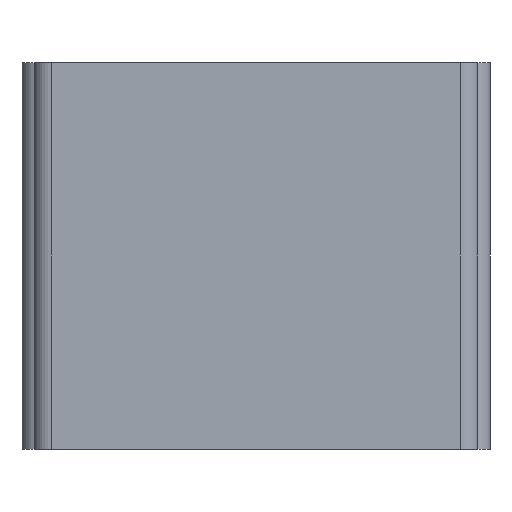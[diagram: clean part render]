
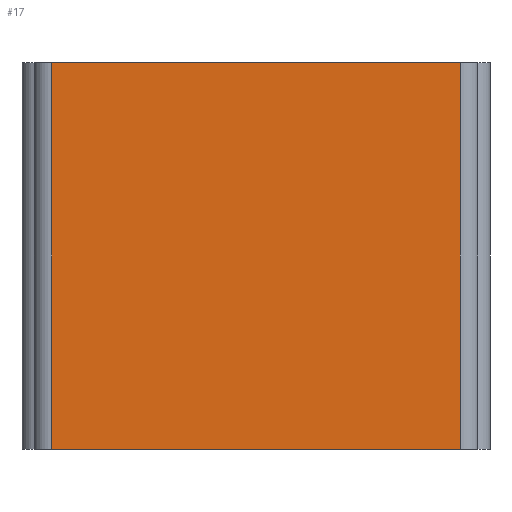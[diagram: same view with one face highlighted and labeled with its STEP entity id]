
A CAD part, left-side view. The second image highlights one B-rep face of the part: STEP entity #17.
In plain terms, the highlighted planar face has unit normal (-1, 0, 0).
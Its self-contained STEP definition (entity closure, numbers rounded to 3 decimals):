
#17 = ADVANCED_FACE('',(#18),#32,.F.);
#18 = FACE_BOUND('',#19,.F.);
#19 = EDGE_LOOP('',(#20,#55,#83,#111));
#20 = ORIENTED_EDGE('',*,*,#21,.F.);
#21 = EDGE_CURVE('',#22,#24,#26,.T.);
#22 = VERTEX_POINT('',#23);
#23 = CARTESIAN_POINT('',(-51.5,-27.5,26.));
#24 = VERTEX_POINT('',#25);
#25 = CARTESIAN_POINT('',(-51.5,27.5,26.));
#26 = SURFACE_CURVE('',#27,(#31,#43),.PCURVE_S1.);
#27 = LINE('',#28,#29);
#28 = CARTESIAN_POINT('',(-51.5,-30.,26.));
#29 = VECTOR('',#30,1.);
#30 = DIRECTION('',(0.,1.,0.));
#31 = PCURVE('',#32,#37);
#32 = PLANE('',#33);
#33 = AXIS2_PLACEMENT_3D('',#34,#35,#36);
#34 = CARTESIAN_POINT('',(-51.5,-30.,-26.));
#35 = DIRECTION('',(1.,0.,0.));
#36 = DIRECTION('',(0.,0.,1.));
#37 = DEFINITIONAL_REPRESENTATION('',(#38),#42);
#38 = LINE('',#39,#40);
#39 = CARTESIAN_POINT('',(52.,0.));
#40 = VECTOR('',#41,1.);
#41 = DIRECTION('',(0.,-1.));
#42 = ( GEOMETRIC_REPRESENTATION_CONTEXT(2) 
PARAMETRIC_REPRESENTATION_CONTEXT() REPRESENTATION_CONTEXT('2D SPACE',''
  ) );
#43 = PCURVE('',#44,#49);
#44 = PLANE('',#45);
#45 = AXIS2_PLACEMENT_3D('',#46,#47,#48);
#46 = CARTESIAN_POINT('',(-51.5,-30.,26.));
#47 = DIRECTION('',(0.,0.,1.));
#48 = DIRECTION('',(1.,0.,0.));
#49 = DEFINITIONAL_REPRESENTATION('',(#50),#54);
#50 = LINE('',#51,#52);
#51 = CARTESIAN_POINT('',(0.,0.));
#52 = VECTOR('',#53,1.);
#53 = DIRECTION('',(0.,1.));
#54 = ( GEOMETRIC_REPRESENTATION_CONTEXT(2) 
PARAMETRIC_REPRESENTATION_CONTEXT() REPRESENTATION_CONTEXT('2D SPACE',''
  ) );
#55 = ORIENTED_EDGE('',*,*,#56,.F.);
#56 = EDGE_CURVE('',#57,#22,#59,.T.);
#57 = VERTEX_POINT('',#58);
#58 = CARTESIAN_POINT('',(-51.5,-27.5,-26.));
#59 = SURFACE_CURVE('',#60,(#64,#71),.PCURVE_S1.);
#60 = LINE('',#61,#62);
#61 = CARTESIAN_POINT('',(-51.5,-27.5,-26.));
#62 = VECTOR('',#63,1.);
#63 = DIRECTION('',(0.,0.,1.));
#64 = PCURVE('',#32,#65);
#65 = DEFINITIONAL_REPRESENTATION('',(#66),#70);
#66 = LINE('',#67,#68);
#67 = CARTESIAN_POINT('',(0.,-2.5));
#68 = VECTOR('',#69,1.);
#69 = DIRECTION('',(1.,0.));
#70 = ( GEOMETRIC_REPRESENTATION_CONTEXT(2) 
PARAMETRIC_REPRESENTATION_CONTEXT() REPRESENTATION_CONTEXT('2D SPACE',''
  ) );
#71 = PCURVE('',#72,#77);
#72 = CYLINDRICAL_SURFACE('',#73,2.5);
#73 = AXIS2_PLACEMENT_3D('',#74,#75,#76);
#74 = CARTESIAN_POINT('',(-49.,-27.5,-26.));
#75 = DIRECTION('',(0.,0.,1.));
#76 = DIRECTION('',(-1.,-0.,0.));
#77 = DEFINITIONAL_REPRESENTATION('',(#78),#82);
#78 = LINE('',#79,#80);
#79 = CARTESIAN_POINT('',(0.,0.));
#80 = VECTOR('',#81,1.);
#81 = DIRECTION('',(0.,1.));
#82 = ( GEOMETRIC_REPRESENTATION_CONTEXT(2) 
PARAMETRIC_REPRESENTATION_CONTEXT() REPRESENTATION_CONTEXT('2D SPACE',''
  ) );
#83 = ORIENTED_EDGE('',*,*,#84,.T.);
#84 = EDGE_CURVE('',#57,#85,#87,.T.);
#85 = VERTEX_POINT('',#86);
#86 = CARTESIAN_POINT('',(-51.5,27.5,-26.));
#87 = SURFACE_CURVE('',#88,(#92,#99),.PCURVE_S1.);
#88 = LINE('',#89,#90);
#89 = CARTESIAN_POINT('',(-51.5,-30.,-26.));
#90 = VECTOR('',#91,1.);
#91 = DIRECTION('',(0.,1.,0.));
#92 = PCURVE('',#32,#93);
#93 = DEFINITIONAL_REPRESENTATION('',(#94),#98);
#94 = LINE('',#95,#96);
#95 = CARTESIAN_POINT('',(0.,0.));
#96 = VECTOR('',#97,1.);
#97 = DIRECTION('',(0.,-1.));
#98 = ( GEOMETRIC_REPRESENTATION_CONTEXT(2) 
PARAMETRIC_REPRESENTATION_CONTEXT() REPRESENTATION_CONTEXT('2D SPACE',''
  ) );
#99 = PCURVE('',#100,#105);
#100 = PLANE('',#101);
#101 = AXIS2_PLACEMENT_3D('',#102,#103,#104);
#102 = CARTESIAN_POINT('',(-51.5,-30.,-26.));
#103 = DIRECTION('',(0.,0.,1.));
#104 = DIRECTION('',(1.,0.,0.));
#105 = DEFINITIONAL_REPRESENTATION('',(#106),#110);
#106 = LINE('',#107,#108);
#107 = CARTESIAN_POINT('',(0.,0.));
#108 = VECTOR('',#109,1.);
#109 = DIRECTION('',(0.,1.));
#110 = ( GEOMETRIC_REPRESENTATION_CONTEXT(2) 
PARAMETRIC_REPRESENTATION_CONTEXT() REPRESENTATION_CONTEXT('2D SPACE',''
  ) );
#111 = ORIENTED_EDGE('',*,*,#112,.T.);
#112 = EDGE_CURVE('',#85,#24,#113,.T.);
#113 = SURFACE_CURVE('',#114,(#118,#125),.PCURVE_S1.);
#114 = LINE('',#115,#116);
#115 = CARTESIAN_POINT('',(-51.5,27.5,-26.));
#116 = VECTOR('',#117,1.);
#117 = DIRECTION('',(0.,0.,1.));
#118 = PCURVE('',#32,#119);
#119 = DEFINITIONAL_REPRESENTATION('',(#120),#124);
#120 = LINE('',#121,#122);
#121 = CARTESIAN_POINT('',(0.,-57.5));
#122 = VECTOR('',#123,1.);
#123 = DIRECTION('',(1.,0.));
#124 = ( GEOMETRIC_REPRESENTATION_CONTEXT(2) 
PARAMETRIC_REPRESENTATION_CONTEXT() REPRESENTATION_CONTEXT('2D SPACE',''
  ) );
#125 = PCURVE('',#126,#131);
#126 = CYLINDRICAL_SURFACE('',#127,2.5);
#127 = AXIS2_PLACEMENT_3D('',#128,#129,#130);
#128 = CARTESIAN_POINT('',(-49.,27.5,-26.));
#129 = DIRECTION('',(0.,0.,1.));
#130 = DIRECTION('',(-1.,-0.,0.));
#131 = DEFINITIONAL_REPRESENTATION('',(#132),#136);
#132 = LINE('',#133,#134);
#133 = CARTESIAN_POINT('',(-0.,0.));
#134 = VECTOR('',#135,1.);
#135 = DIRECTION('',(-0.,1.));
#136 = ( GEOMETRIC_REPRESENTATION_CONTEXT(2) 
PARAMETRIC_REPRESENTATION_CONTEXT() REPRESENTATION_CONTEXT('2D SPACE',''
  ) );
